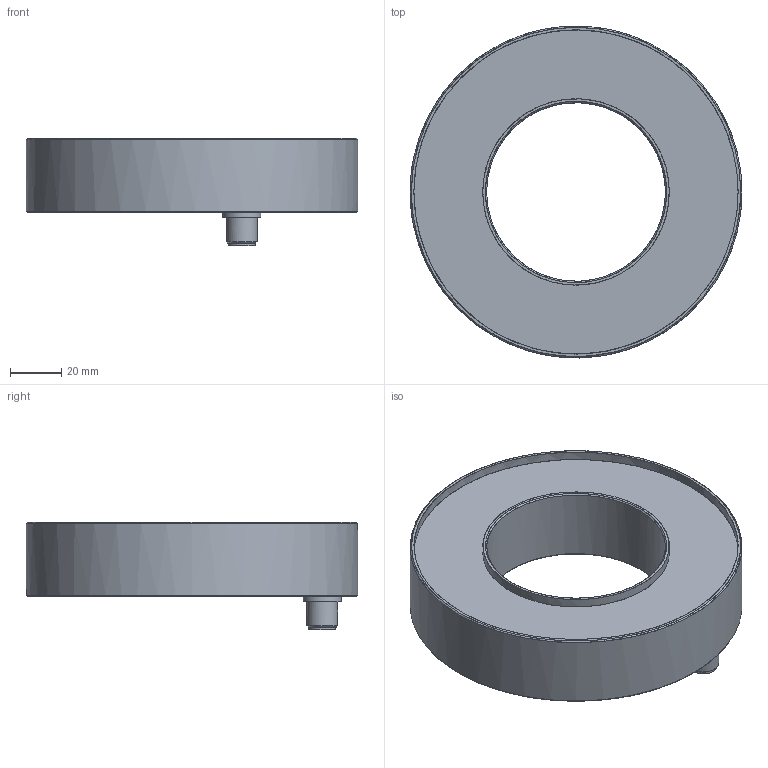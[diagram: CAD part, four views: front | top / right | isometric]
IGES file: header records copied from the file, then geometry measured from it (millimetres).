
Global section: file name: 3DCAD_IL_RL_070_130_WH_300.igs; native system: NX V2306; preprocessor: SIEMENS PLM Software NX2306.1700; date: 20240214.092317; units: millimetre
Bounding box: 129.99 x 129.97 x 42 mm (x, y, z)
Surface area: 54032.7 mm2 (no closed solid volume)
Topology: 0 solids, 0 shells, 105 faces, 1136 edges, 1084 vertices
Faces by surface type: bspline 105
